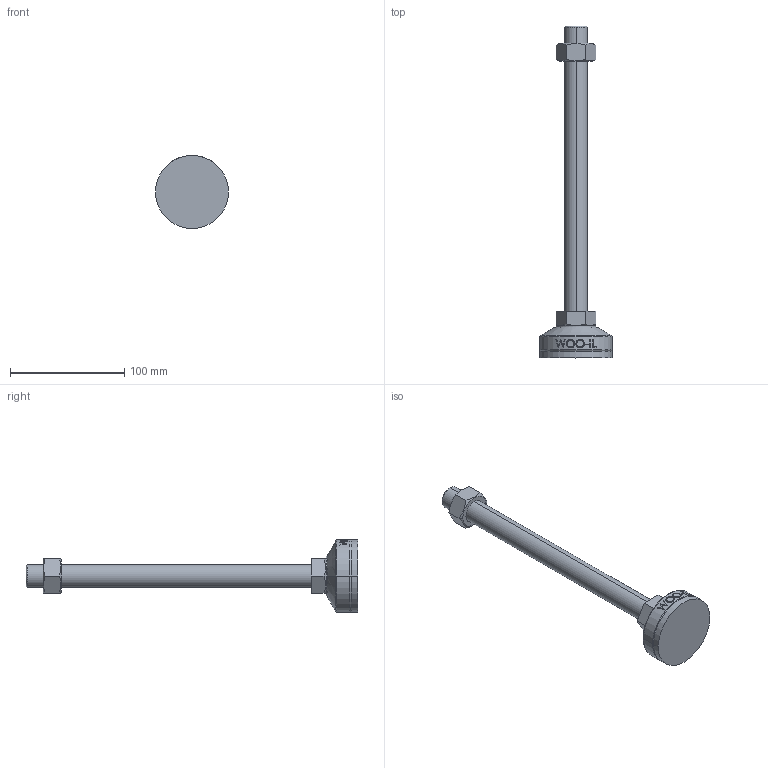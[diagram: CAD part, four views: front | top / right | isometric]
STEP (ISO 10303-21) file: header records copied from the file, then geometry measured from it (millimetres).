
FILE_DESCRIPTION (( 'STEP AP214' ), '1' );
FILE_NAME ('MFZR64-M20-250.step', '2021-03-29T06:57:10', ( '' ), ( '' ), 'SwSTEP 2.0', 'SolidWorks 2019', '' );
FILE_SCHEMA (( 'AUTOMOTIVE_DESIGN' ));
Length unit declared in the file: millimetre
Products named in the file (2): MFZR64-M20-250
Bounding box: 64 x 291 x 64 mm (x, y, z)
Volume: 174284.8 mm3; surface area: 32972.9 mm2
Topology: 3 solids, 3 shells, 102 faces, 235 edges, 150 vertices
Faces by surface type: plane 48, cylinder 18, bspline 16, cone 14, torus 6
Entity records: 4428 total; most frequent: CARTESIAN_POINT 2173, ORIENTED_EDGE 470, DIRECTION 415, EDGE_CURVE 235, AXIS2_PLACEMENT_3D 158, VERTEX_POINT 150, EDGE_LOOP 115, ADVANCED_FACE 102
